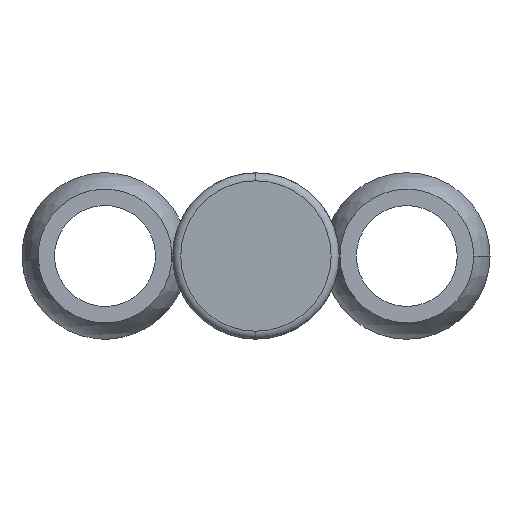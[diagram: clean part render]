
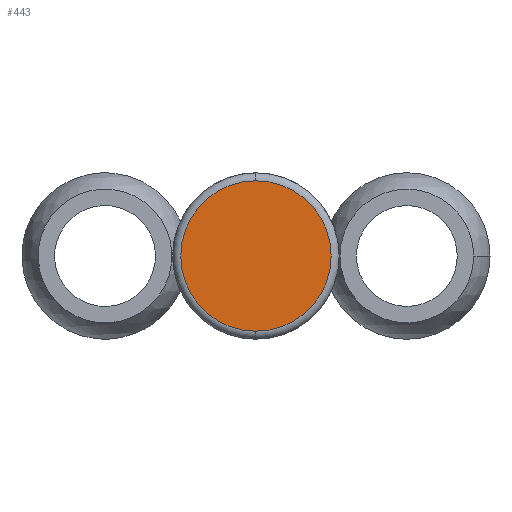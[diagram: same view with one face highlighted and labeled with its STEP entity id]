
A CAD part, front view. The second image highlights one B-rep face of the part: STEP entity #443.
In plain terms, the highlighted planar face has unit normal (0, -1, 0).
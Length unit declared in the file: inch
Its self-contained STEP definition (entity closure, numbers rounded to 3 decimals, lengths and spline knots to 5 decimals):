
#49 = DIRECTION ( 'NONE',  ( 0., 0., 1. ) ) ;
#98 = ORIENTED_EDGE ( 'NONE', *, *, #730, .T. ) ;
#208 = FACE_OUTER_BOUND ( 'NONE', #1364, .T. ) ;
#218 = CIRCLE ( 'NONE', #1419, 0.2825 ) ;
#235 = CARTESIAN_POINT ( 'NONE',  ( 0., -1.075, 0. ) ) ;
#239 = VERTEX_POINT ( 'NONE', #964 ) ;
#392 = EDGE_CURVE ( 'NONE', #801, #239, #813, .T. ) ;
#401 = DIRECTION ( 'NONE',  ( 0., 0., 1. ) ) ;
#412 = DIRECTION ( 'NONE',  ( 0., -1., 0. ) ) ;
#443 = ADVANCED_FACE ( 'NONE', ( #208 ), #803, .F. ) ;
#454 = DIRECTION ( 'NONE',  ( 0., 1., 0. ) ) ;
#531 = CARTESIAN_POINT ( 'NONE',  ( 0., -1.075, 0. ) ) ;
#621 = ORIENTED_EDGE ( 'NONE', *, *, #392, .T. ) ;
#625 = CARTESIAN_POINT ( 'NONE',  ( 0., -1.075, -0.2825 ) ) ;
#707 = DIRECTION ( 'NONE',  ( 0., -1., 0. ) ) ;
#730 = EDGE_CURVE ( 'NONE', #239, #801, #218, .T. ) ;
#801 = VERTEX_POINT ( 'NONE', #625 ) ;
#803 = PLANE ( 'NONE',  #985 ) ;
#813 = CIRCLE ( 'NONE', #1012, 0.2825 ) ;
#964 = CARTESIAN_POINT ( 'NONE',  ( 0., -1.075, 0.2825 ) ) ;
#985 = AXIS2_PLACEMENT_3D ( 'NONE', #235, #454, #1336 ) ;
#1012 = AXIS2_PLACEMENT_3D ( 'NONE', #1339, #707, #49 ) ;
#1336 = DIRECTION ( 'NONE',  ( 0., 0., 1. ) ) ;
#1339 = CARTESIAN_POINT ( 'NONE',  ( 0., -1.075, 0. ) ) ;
#1364 = EDGE_LOOP ( 'NONE', ( #98, #621 ) ) ;
#1419 = AXIS2_PLACEMENT_3D ( 'NONE', #531, #412, #401 ) ;
